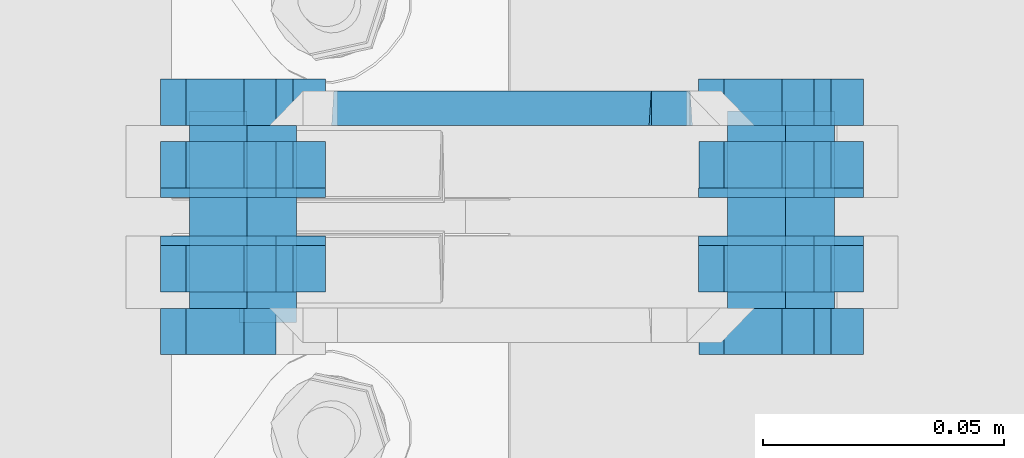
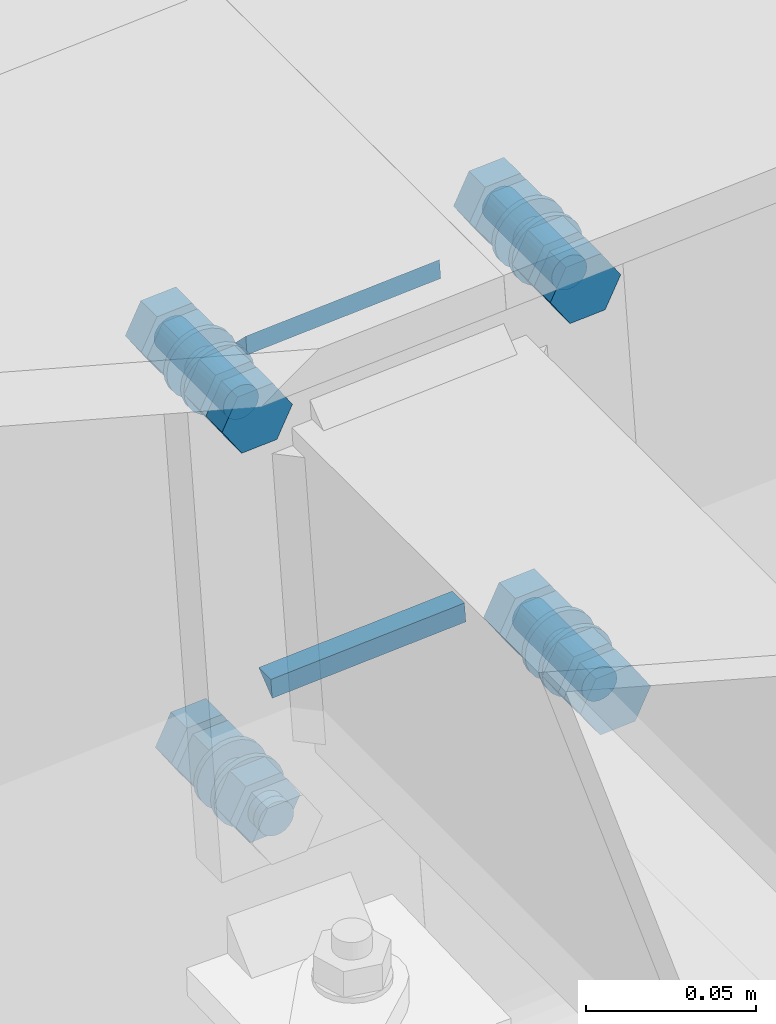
# One storey, part 42 of 72: 31 mechanical fasteners, 4 fasteners.
"""IFC4 building model written with IfcOpenShell, lengths in metres."""

from ifc_helpers import new_model, si_unit, frame, origin_with_axes, place, context, project, spatial, polyline, outline, extrude, type_object, element, save


model = new_model("IFC4")

# Units and contexts
model_context = context("Model", 3, precision=1e-05, world=origin_with_axes())
ifc_project = project(units=[si_unit("LENGTHUNIT", "METRE"), si_unit("AREAUNIT", "SQUARE_METRE"), si_unit("VOLUMEUNIT", "CUBIC_METRE"), si_unit("MASSUNIT", "GRAM", prefix="KILO"), si_unit("TIMEUNIT", "SECOND"), si_unit("PLANEANGLEUNIT", "RADIAN"), si_unit("SOLIDANGLEUNIT", "STERADIAN"), si_unit("THERMODYNAMICTEMPERATUREUNIT", "DEGREE_CELSIUS")], contexts=[model_context])

# Site, building, storey
placement_1 = place(None, origin_with_axes())
site = spatial("IfcSite", under=ifc_project, at=placement_1, Name="Italia", CompositionType="ELEMENT")
building = spatial("IfcBuilding", under=site, at=placement_1, Name="Pensilina", CompositionType="ELEMENT")
storey = spatial("IfcBuildingStorey", under=building, at=placement_1, Name="Storey 0", CompositionType="ELEMENT", Elevation=0.0)

# Mechanical fasteners
mechanical_fastener_type_1 = type_object("IfcMechanicalFastenerType", Name="Collegamento 0602_0601", PredefinedType="BOLT")
placement_2 = place(placement_1, origin_with_axes())
mechanical_fastener_1_placement = place(placement_2, origin_with_axes())
element("IfcMechanicalFastener", 1, at=mechanical_fastener_1_placement, inside=storey, type_object=mechanical_fastener_type_1, Name="Collegamento 0602_0601", NominalDiameter=0.012, context=model_context, shape_type="SweptSolid", body=[
    extrude(outline(polyline([(0.0, 0.0, 0.0), (-0.000204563, -0.00155282, 0.0), (-0.000803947, -0.00300002, 0.0), (-0.00175762, -0.00424266, 0.0), (-0.00300026, -0.00519609, 0.0), (-0.00444698, -0.00579548, 0.0), (-0.00600004, -0.00600004, 0.0), (-0.0075531, -0.00579548, 0.0), (-0.00899982, -0.00519609, 0.0), (-0.0102425, -0.00424266, 0.0), (-0.0111961, -0.00300002, 0.0), (-0.0117955, -0.00155282, 0.0), (-0.0120001, 0.0, 0.0), (-0.0117955, 0.00155282, 0.0), (-0.0111961, 0.00300002, 0.0), (-0.0102425, 0.00424266, 0.0), (-0.00899982, 0.00519609, 0.0), (-0.0075531, 0.00579548, 0.0), (-0.00600004, 0.00600004, 0.0), (-0.00444698, 0.00579548, 0.0), (-0.00300026, 0.00519609, 0.0), (-0.00175762, 0.00424266, 0.0), (-0.000803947, 0.00300002, 0.0), (-0.000204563, 0.00155282, 0.0), (0.0, 0.0, 0.0)])), frame((5.76506, 5.302, 3.94598), z_axis=(0.0, -1.0, 0.0), x_axis=(1.0, 0.0, 0.0)), (0.0, 0.0, 1.0), 0.0409999),
])
mechanical_fastener_type_2 = type_object("IfcMechanicalFastenerType", Name="Collegamento 0602_0601", PredefinedType="BOLT")
mechanical_fastener_2_placement = place(placement_2, origin_with_axes())
element("IfcMechanicalFastener", 2, at=mechanical_fastener_2_placement, inside=storey, type_object=mechanical_fastener_type_2, Name="Collegamento 0602_0601", NominalDiameter=0.0119998, context=model_context, shape_type="SweptSolid", body=[
    extrude(outline(polyline([(0.0, 0.0, 0.0), (-0.0119729, -0.000807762, 0.0), (-0.0186586, 0.00915718, 0.0), (-0.0133719, 0.0199296, 0.0), (-0.00139904, 0.0207376, 0.0), (0.00528669, 0.0107727, 0.0), (0.0, 0.0, 0.0)])), frame((5.76574, 5.2956, 3.93602), z_axis=(0.0, -1.0, 0.0), x_axis=(1.0, 0.0, 0.0)), (0.0, 0.0, 1.0), 0.00959969),
])
mechanical_fastener_type_3 = type_object("IfcMechanicalFastenerType", Name="Collegamento 0602_0601", PredefinedType="BOLT")
mechanical_fastener_3_placement = place(placement_2, origin_with_axes())
element("IfcMechanicalFastener", 3, at=mechanical_fastener_3_placement, inside=storey, type_object=mechanical_fastener_type_3, Name="Collegamento 0602_0601", NominalDiameter=0.024, context=model_context, shape_type="SweptSolid", body=[
    extrude(outline(polyline([(0.0, 0.0, 0.0), (-0.000409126, -0.00310588, 0.0), (-0.00160789, -0.00600004, 0.0), (-0.00351477, -0.00848532, 0.0), (-0.00600004, -0.0103922, 0.0), (-0.00889444, -0.0115912, 0.0), (-0.0120001, -0.0120001, 0.0), (-0.0151057, -0.0115912, 0.0), (-0.0180001, -0.0103922, 0.0), (-0.0204854, -0.00848532, 0.0), (-0.0223923, -0.00600004, 0.0), (-0.023591, -0.00310588, 0.0), (-0.0240002, 0.0, 0.0), (-0.023591, 0.00310588, 0.0), (-0.0223923, 0.00600004, 0.0), (-0.0204854, 0.00848532, 0.0), (-0.0180001, 0.0103922, 0.0), (-0.0151057, 0.0115912, 0.0), (-0.0120001, 0.0120001, 0.0), (-0.00889444, 0.0115912, 0.0), (-0.00600004, 0.0103922, 0.0), (-0.00351477, 0.00848532, 0.0), (-0.00160789, 0.00600004, 0.0), (-0.000409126, 0.00310588, 0.0), (0.0, 0.0, 0.0)])), frame((5.77106, 5.286, 3.94598), z_axis=(0.0, -1.0, 0.0), x_axis=(1.0, 0.0, 0.0)), (0.0, 0.0, 1.0), 0.00200033),
])
mechanical_fastener_type_4 = type_object("IfcMechanicalFastenerType", Name="Collegamento 0602_0601", PredefinedType="BOLT")
mechanical_fastener_4_placement = place(placement_2, origin_with_axes())
element("IfcMechanicalFastener", 4, at=mechanical_fastener_4_placement, inside=storey, type_object=mechanical_fastener_type_4, Name="Collegamento 0602_0601", NominalDiameter=0.0119998, context=model_context, shape_type="SweptSolid", body=[
    extrude(outline(polyline([(0.0, 0.0, 0.0), (-0.0119729, -0.000807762, 0.0), (-0.0186586, 0.00915718, 0.0), (-0.0133719, 0.0199296, 0.0), (-0.00139904, 0.0207376, 0.0), (0.00528669, 0.0107727, 0.0), (0.0, 0.0, 0.0)])), frame((5.87749, 5.261, 3.94356), z_axis=(0.0, -1.0, 0.0), x_axis=(1.0, 0.0, 0.0)), (0.0, 0.0, 1.0), 0.00960016),
])
mechanical_fastener_type_5 = type_object("IfcMechanicalFastenerType", Name="Collegamento 0602_0601", PredefinedType="BOLT")
mechanical_fastener_5_placement = place(placement_2, origin_with_axes())
element("IfcMechanicalFastener", 5, at=mechanical_fastener_5_placement, inside=storey, type_object=mechanical_fastener_type_5, Name="Collegamento 0602_0601", NominalDiameter=0.012, context=model_context, shape_type="SweptSolid", body=[
    extrude(outline(polyline([(0.0, 0.0, 0.0), (-0.000204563, -0.00155282, 0.0), (-0.000803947, -0.00300002, 0.0), (-0.00175762, -0.00424266, 0.0), (-0.00300026, -0.00519609, 0.0), (-0.00444698, -0.00579548, 0.0), (-0.00600004, -0.00600004, 0.0), (-0.0075531, -0.00579548, 0.0), (-0.00899982, -0.00519609, 0.0), (-0.0102425, -0.00424266, 0.0), (-0.0111961, -0.00300002, 0.0), (-0.0117955, -0.00155282, 0.0), (-0.0120001, 0.0, 0.0), (-0.0117955, 0.00155282, 0.0), (-0.0111961, 0.00300002, 0.0), (-0.0102425, 0.00424266, 0.0), (-0.00899982, 0.00519609, 0.0), (-0.0075531, 0.00579548, 0.0), (-0.00600004, 0.00600004, 0.0), (-0.00444698, 0.00579548, 0.0), (-0.00300026, 0.00519609, 0.0), (-0.00175762, 0.00424266, 0.0), (-0.000803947, 0.00300002, 0.0), (-0.000204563, 0.00155282, 0.0), (0.0, 0.0, 0.0)])), frame((5.8768, 5.302, 3.95352), z_axis=(0.0, -1.0, 0.0), x_axis=(1.0, 0.0, 0.0)), (0.0, 0.0, 1.0), 0.0409999),
])
mechanical_fastener_type_6 = type_object("IfcMechanicalFastenerType", Name="Collegamento 0602_0601", PredefinedType="BOLT")
mechanical_fastener_6_placement = place(placement_2, origin_with_axes())
element("IfcMechanicalFastener", 6, at=mechanical_fastener_6_placement, inside=storey, type_object=mechanical_fastener_type_6, Name="Collegamento 0602_0601", NominalDiameter=0.0119998, context=model_context, shape_type="SweptSolid", body=[
    extrude(outline(polyline([(0.0, 0.0, 0.0), (-0.0119729, -0.000807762, 0.0), (-0.0186586, 0.00915718, 0.0), (-0.0133719, 0.0199296, 0.0), (-0.00139904, 0.0207376, 0.0), (0.00528669, 0.0107727, 0.0), (0.0, 0.0, 0.0)])), frame((5.87749, 5.2956, 3.94356), z_axis=(0.0, -1.0, 0.0), x_axis=(1.0, 0.0, 0.0)), (0.0, 0.0, 1.0), 0.00959969),
])
mechanical_fastener_type_7 = type_object("IfcMechanicalFastenerType", Name="Collegamento 0602_0601", PredefinedType="BOLT")
mechanical_fastener_7_placement = place(placement_2, origin_with_axes())
element("IfcMechanicalFastener", 7, at=mechanical_fastener_7_placement, inside=storey, type_object=mechanical_fastener_type_7, Name="Collegamento 0602_0601", NominalDiameter=0.024, context=model_context, shape_type="SweptSolid", body=[
    extrude(outline(polyline([(0.0, 0.0, 0.0), (-0.000409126, -0.00310588, 0.0), (-0.00160789, -0.00600004, 0.0), (-0.00351477, -0.00848532, 0.0), (-0.00600004, -0.0103922, 0.0), (-0.00889444, -0.0115912, 0.0), (-0.0120001, -0.0120001, 0.0), (-0.0151057, -0.0115912, 0.0), (-0.0180001, -0.0103922, 0.0), (-0.0204854, -0.00848532, 0.0), (-0.0223923, -0.00600004, 0.0), (-0.023591, -0.00310588, 0.0), (-0.0240002, 0.0, 0.0), (-0.023591, 0.00310588, 0.0), (-0.0223923, 0.00600004, 0.0), (-0.0204854, 0.00848532, 0.0), (-0.0180001, 0.0103922, 0.0), (-0.0151057, 0.0115912, 0.0), (-0.0120001, 0.0120001, 0.0), (-0.00889444, 0.0115912, 0.0), (-0.00600004, 0.0103922, 0.0), (-0.00351477, 0.00848532, 0.0), (-0.00160789, 0.00600004, 0.0), (-0.000409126, 0.00310588, 0.0), (0.0, 0.0, 0.0)])), frame((5.8828, 5.286, 3.95352), z_axis=(0.0, -1.0, 0.0), x_axis=(1.0, 0.0, 0.0)), (0.0, 0.0, 1.0), 0.00200033),
])
mechanical_fastener_type_8 = type_object("IfcMechanicalFastenerType", Name="Collegamento 0602_0601", PredefinedType="BOLT")
mechanical_fastener_8_placement = place(placement_2, origin_with_axes())
element("IfcMechanicalFastener", 8, at=mechanical_fastener_8_placement, inside=storey, type_object=mechanical_fastener_type_8, Name="Collegamento 0602_0601", NominalDiameter=0.0119996, context=model_context, shape_type="SweptSolid", body=[
    extrude(outline(polyline([(0.0, 0.0, 0.0), (-0.0119729, -0.000807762, 0.0), (-0.0186586, 0.0091567, 0.0), (-0.0133719, 0.0199294, 0.0), (-0.00139904, 0.0207372, 0.0), (0.00528669, 0.0107727, 0.0), (0.0, 0.0, 0.0)])), frame((5.75551, 5.261, 4.08767), z_axis=(0.0, -1.0, 0.0), x_axis=(1.0, 0.0, 0.0)), (0.0, 0.0, 1.0), 0.00960016),
])
mechanical_fastener_type_9 = type_object("IfcMechanicalFastenerType", Name="Collegamento 0602_0601", PredefinedType="BOLT")
mechanical_fastener_9_placement = place(placement_2, origin_with_axes())
element("IfcMechanicalFastener", 9, at=mechanical_fastener_9_placement, inside=storey, type_object=mechanical_fastener_type_9, Name="Collegamento 0602_0601", NominalDiameter=0.012, context=model_context, shape_type="SweptSolid", body=[
    extrude(outline(polyline([(0.0, 0.0, 0.0), (-0.000204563, -0.00155306, 0.0), (-0.000803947, -0.00299978, 0.0), (-0.00175762, -0.00424242, 0.0), (-0.00300026, -0.00519609, 0.0), (-0.00444698, -0.00579548, 0.0), (-0.00600004, -0.00600004, 0.0), (-0.0075531, -0.00579548, 0.0), (-0.00899982, -0.00519609, 0.0), (-0.0102425, -0.00424242, 0.0), (-0.0111961, -0.00299978, 0.0), (-0.0117955, -0.00155306, 0.0), (-0.0120001, 0.0, 0.0), (-0.0117955, 0.00155306, 0.0), (-0.0111961, 0.00299978, 0.0), (-0.0102425, 0.00424242, 0.0), (-0.00899982, 0.00519609, 0.0), (-0.0075531, 0.00579548, 0.0), (-0.00600004, 0.00600004, 0.0), (-0.00444698, 0.00579548, 0.0), (-0.00300026, 0.00519609, 0.0), (-0.00175762, 0.00424242, 0.0), (-0.000803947, 0.00299978, 0.0), (-0.000204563, 0.00155306, 0.0), (0.0, 0.0, 0.0)])), frame((5.75482, 5.302, 4.09764), z_axis=(0.0, -1.0, 0.0), x_axis=(1.0, 0.0, 0.0)), (0.0, 0.0, 1.0), 0.0409999),
])
mechanical_fastener_type_10 = type_object("IfcMechanicalFastenerType", Name="Collegamento 0602_0601", PredefinedType="BOLT")
mechanical_fastener_10_placement = place(placement_2, origin_with_axes())
element("IfcMechanicalFastener", 10, at=mechanical_fastener_10_placement, inside=storey, type_object=mechanical_fastener_type_10, Name="Collegamento 0602_0601", NominalDiameter=0.0119996, context=model_context, shape_type="SweptSolid", body=[
    extrude(outline(polyline([(0.0, 0.0, 0.0), (-0.0119729, -0.000807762, 0.0), (-0.0186586, 0.0091567, 0.0), (-0.0133719, 0.0199294, 0.0), (-0.00139904, 0.0207372, 0.0), (0.00528669, 0.0107727, 0.0), (0.0, 0.0, 0.0)])), frame((5.75551, 5.2956, 4.08767), z_axis=(0.0, -1.0, 0.0), x_axis=(1.0, 0.0, 0.0)), (0.0, 0.0, 1.0), 0.00959969),
])
mechanical_fastener_type_11 = type_object("IfcMechanicalFastenerType", Name="Collegamento 0602_0601", PredefinedType="BOLT")
mechanical_fastener_11_placement = place(placement_2, origin_with_axes())
element("IfcMechanicalFastener", 11, at=mechanical_fastener_11_placement, inside=storey, type_object=mechanical_fastener_type_11, Name="Collegamento 0602_0601", NominalDiameter=0.024, context=model_context, shape_type="SweptSolid", body=[
    extrude(outline(polyline([(0.0, 0.0, 0.0), (-0.000409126, -0.00310564, 0.0), (-0.00160789, -0.00600004, 0.0), (-0.00351477, -0.00848532, 0.0), (-0.00600004, -0.0103922, 0.0), (-0.00889444, -0.011591, 0.0), (-0.0120001, -0.0120001, 0.0), (-0.0151057, -0.011591, 0.0), (-0.0180001, -0.0103922, 0.0), (-0.0204854, -0.00848532, 0.0), (-0.0223923, -0.00600004, 0.0), (-0.023591, -0.00310564, 0.0), (-0.0240002, 0.0, 0.0), (-0.023591, 0.00310564, 0.0), (-0.0223923, 0.00600004, 0.0), (-0.0204854, 0.00848532, 0.0), (-0.0180001, 0.0103922, 0.0), (-0.0151057, 0.011591, 0.0), (-0.0120001, 0.0120001, 0.0), (-0.00889444, 0.011591, 0.0), (-0.00600004, 0.0103922, 0.0), (-0.00351477, 0.00848532, 0.0), (-0.00160789, 0.00600004, 0.0), (-0.000409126, 0.00310564, 0.0), (0.0, 0.0, 0.0)])), frame((5.76082, 5.286, 4.09764), z_axis=(0.0, -1.0, 0.0), x_axis=(1.0, 0.0, 0.0)), (0.0, 0.0, 1.0), 0.00200033),
])
mechanical_fastener_type_12 = type_object("IfcMechanicalFastenerType", Name="Collegamento 0602_0601", PredefinedType="BOLT")
mechanical_fastener_12_placement = place(placement_2, origin_with_axes())
element("IfcMechanicalFastener", 12, at=mechanical_fastener_12_placement, inside=storey, type_object=mechanical_fastener_type_12, Name="Collegamento 0602_0601", NominalDiameter=0.0119996, context=model_context, shape_type="SweptSolid", body=[
    extrude(outline(polyline([(0.0, 0.0, 0.0), (-0.0119729, -0.000807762, 0.0), (-0.0186586, 0.0091567, 0.0), (-0.0133719, 0.0199294, 0.0), (-0.00139904, 0.0207372, 0.0), (0.00528669, 0.0107727, 0.0), (0.0, 0.0, 0.0)])), frame((5.86726, 5.261, 4.09521), z_axis=(0.0, -1.0, 0.0), x_axis=(1.0, 0.0, 0.0)), (0.0, 0.0, 1.0), 0.00960016),
])
mechanical_fastener_type_13 = type_object("IfcMechanicalFastenerType", Name="Collegamento 0602_0601", PredefinedType="BOLT")
mechanical_fastener_13_placement = place(placement_2, origin_with_axes())
element("IfcMechanicalFastener", 13, at=mechanical_fastener_13_placement, inside=storey, type_object=mechanical_fastener_type_13, Name="Collegamento 0602_0601", NominalDiameter=0.012, context=model_context, shape_type="SweptSolid", body=[
    extrude(outline(polyline([(0.0, 0.0, 0.0), (-0.000204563, -0.00155306, 0.0), (-0.000803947, -0.00299978, 0.0), (-0.00175762, -0.00424242, 0.0), (-0.00300026, -0.00519609, 0.0), (-0.00444698, -0.00579548, 0.0), (-0.00600004, -0.00600004, 0.0), (-0.0075531, -0.00579548, 0.0), (-0.00899982, -0.00519609, 0.0), (-0.0102425, -0.00424242, 0.0), (-0.0111961, -0.00299978, 0.0), (-0.0117955, -0.00155306, 0.0), (-0.0120001, 0.0, 0.0), (-0.0117955, 0.00155306, 0.0), (-0.0111961, 0.00299978, 0.0), (-0.0102425, 0.00424242, 0.0), (-0.00899982, 0.00519609, 0.0), (-0.0075531, 0.00579548, 0.0), (-0.00600004, 0.00600004, 0.0), (-0.00444698, 0.00579548, 0.0), (-0.00300026, 0.00519609, 0.0), (-0.00175762, 0.00424242, 0.0), (-0.000803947, 0.00299978, 0.0), (-0.000204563, 0.00155306, 0.0), (0.0, 0.0, 0.0)])), frame((5.86657, 5.302, 4.10518), z_axis=(0.0, -1.0, 0.0), x_axis=(1.0, 0.0, 0.0)), (0.0, 0.0, 1.0), 0.0409999),
])
mechanical_fastener_type_14 = type_object("IfcMechanicalFastenerType", Name="Collegamento 0602_0601", PredefinedType="BOLT")
mechanical_fastener_14_placement = place(placement_2, origin_with_axes())
element("IfcMechanicalFastener", 14, at=mechanical_fastener_14_placement, inside=storey, type_object=mechanical_fastener_type_14, Name="Collegamento 0602_0601", NominalDiameter=0.0119996, context=model_context, shape_type="SweptSolid", body=[
    extrude(outline(polyline([(0.0, 0.0, 0.0), (-0.0119729, -0.000807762, 0.0), (-0.0186586, 0.0091567, 0.0), (-0.0133719, 0.0199294, 0.0), (-0.00139904, 0.0207372, 0.0), (0.00528669, 0.0107727, 0.0), (0.0, 0.0, 0.0)])), frame((5.86726, 5.2956, 4.09521), z_axis=(0.0, -1.0, 0.0), x_axis=(1.0, 0.0, 0.0)), (0.0, 0.0, 1.0), 0.00959969),
])
mechanical_fastener_type_15 = type_object("IfcMechanicalFastenerType", Name="Collegamento 0602_0601", PredefinedType="BOLT")
mechanical_fastener_15_placement = place(placement_2, origin_with_axes())
element("IfcMechanicalFastener", 15, at=mechanical_fastener_15_placement, inside=storey, type_object=mechanical_fastener_type_15, Name="Collegamento 0602_0601", NominalDiameter=0.024, context=model_context, shape_type="SweptSolid", body=[
    extrude(outline(polyline([(0.0, 0.0, 0.0), (-0.000409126, -0.00310564, 0.0), (-0.00160789, -0.00600004, 0.0), (-0.00351477, -0.00848532, 0.0), (-0.00600004, -0.0103922, 0.0), (-0.00889444, -0.011591, 0.0), (-0.0120001, -0.0120001, 0.0), (-0.0151057, -0.011591, 0.0), (-0.0180001, -0.0103922, 0.0), (-0.0204854, -0.00848532, 0.0), (-0.0223923, -0.00600004, 0.0), (-0.023591, -0.00310564, 0.0), (-0.0240002, 0.0, 0.0), (-0.023591, 0.00310564, 0.0), (-0.0223923, 0.00600004, 0.0), (-0.0204854, 0.00848532, 0.0), (-0.0180001, 0.0103922, 0.0), (-0.0151057, 0.011591, 0.0), (-0.0120001, 0.0120001, 0.0), (-0.00889444, 0.011591, 0.0), (-0.00600004, 0.0103922, 0.0), (-0.00351477, 0.00848532, 0.0), (-0.00160789, 0.00600004, 0.0), (-0.000409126, 0.00310564, 0.0), (0.0, 0.0, 0.0)])), frame((5.87257, 5.286, 4.10518), z_axis=(0.0, -1.0, 0.0), x_axis=(1.0, 0.0, 0.0)), (0.0, 0.0, 1.0), 0.00200033),
])

# Fasteners
fastener_type_1 = type_object("IfcFastenerType", Name="Collegamento 0602_0603", PredefinedType="WELD")
fastener_1_placement = place(placement_2, origin_with_axes())
element("IfcFastener", 16, at=fastener_1_placement, inside=storey, type_object=fastener_type_1, Name="Collegamento 0602_0603", context=model_context, shape_type="SweptSolid", body=[
    extrude(outline(polyline([(0.0, 0.0, 0.0), (0.00717354, -0.00695801, 0.0), (0.0, -0.00695801, 0.0), (0.0, 0.0, 0.0)])), frame((5.77233, 5.29895, 4.09011), z_axis=(0.997731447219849, 0.0, 0.067320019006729), x_axis=(0.0, 1.0, 0.0)), (0.0, 0.0, 1.0), 0.0660999),
])
fastener_type_2 = type_object("IfcFastenerType", Name="Collegamento 0602_0603", PredefinedType="WELD")
fastener_2_placement = place(placement_2, origin_with_axes())
element("IfcFastener", 17, at=fastener_2_placement, inside=storey, type_object=fastener_type_2, Name="Collegamento 0602_0603", context=model_context, shape_type="SweptSolid", body=[
    extrude(outline(polyline([(0.0, 0.0, 0.0), (-0.00717354, 0.00695848, 0.0), (0.0, 0.00695848, 0.0), (0.0, 0.0, 0.0)])), frame((5.84729, 5.29895, 3.96105), z_axis=(-0.997731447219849, 0.0, -0.06731953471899), x_axis=(0.0, -1.0, 0.0)), (0.0, 0.0, 1.0), 0.0661003),
])
fastener_type_3 = type_object("IfcFastenerType", Name="Collegamento 0602_0603", PredefinedType="WELD")
fastener_3_placement = place(placement_2, origin_with_axes())
element("IfcFastener", 18, at=fastener_3_placement, inside=storey, type_object=fastener_type_3, Name="Collegamento 0602_0603", context=model_context, shape_type="SweptSolid", body=[
    extrude(outline(polyline([(0.0, 0.0, 0.0), (0.00717354, -0.00695801, 0.0), (0.0, -0.00695801, 0.0), (0.0, 0.0, 0.0)])), frame((5.77233, 5.29895, 4.09011), z_axis=(0.997731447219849, 0.0, 0.067320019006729), x_axis=(0.0, 1.0, 0.0)), (0.0, 0.0, 1.0), 0.0660999),
])
fastener_type_4 = type_object("IfcFastenerType", Name="Collegamento 0602_0603", PredefinedType="WELD")
fastener_4_placement = place(placement_2, origin_with_axes())
element("IfcFastener", 19, at=fastener_4_placement, inside=storey, type_object=fastener_type_4, Name="Collegamento 0602_0603", context=model_context, shape_type="SweptSolid", body=[
    extrude(outline(polyline([(0.0, 0.0, 0.0), (-0.00717354, 0.00695848, 0.0), (0.0, 0.00695848, 0.0), (0.0, 0.0, 0.0)])), frame((5.84729, 5.29895, 3.96105), z_axis=(-0.997731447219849, 0.0, -0.06731953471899), x_axis=(0.0, -1.0, 0.0)), (0.0, 0.0, 1.0), 0.0661003),
])

# Mechanical fasteners
mechanical_fastener_type_16 = type_object("IfcMechanicalFastenerType", Name="Collegamento 0602_0603", PredefinedType="BOLT")
mechanical_fastener_16_placement = place(placement_2, origin_with_axes())
element("IfcMechanicalFastener", 20, at=mechanical_fastener_16_placement, inside=storey, type_object=mechanical_fastener_type_16, Name="Collegamento 0602_0603", NominalDiameter=0.0119998, context=model_context, shape_type="SweptSolid", body=[
    extrude(outline(polyline([(0.0, 0.0, 0.0), (-0.0119729, 0.000807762, 0.0), (-0.0172596, 0.0115805, 0.0), (-0.0105739, 0.0215454, 0.0), (0.00139904, 0.0207374, 0.0), (0.00668573, 0.00996494, 0.0), (0.0, 0.0, 0.0)])), frame((5.86551, 5.299, 3.94275), z_axis=(0.0, 1.0, 0.0), x_axis=(-1.0, 0.0, 0.0)), (0.0, 0.0, 1.0), 0.00960016),
])
mechanical_fastener_type_17 = type_object("IfcMechanicalFastenerType", Name="Collegamento 0602_0603", PredefinedType="BOLT")
mechanical_fastener_17_placement = place(placement_2, origin_with_axes())
element("IfcMechanicalFastener", 21, at=mechanical_fastener_17_placement, inside=storey, type_object=mechanical_fastener_type_17, Name="Collegamento 0602_0603", NominalDiameter=0.012, context=model_context, shape_type="SweptSolid", body=[
    extrude(outline(polyline([(0.0, 0.0, 0.0), (-0.000204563, -0.00155282, 0.0), (-0.000803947, -0.00300002, 0.0), (-0.00175762, -0.00424266, 0.0), (-0.00300026, -0.00519609, 0.0), (-0.00444698, -0.00579548, 0.0), (-0.00600004, -0.00600004, 0.0), (-0.0075531, -0.00579548, 0.0), (-0.00899982, -0.00519609, 0.0), (-0.0102425, -0.00424266, 0.0), (-0.0111961, -0.00300002, 0.0), (-0.0117955, -0.00155282, 0.0), (-0.0120001, 0.0, 0.0), (-0.0117955, 0.00155282, 0.0), (-0.0111961, 0.00300002, 0.0), (-0.0102425, 0.00424266, 0.0), (-0.00899982, 0.00519609, 0.0), (-0.0075531, 0.00579548, 0.0), (-0.00600004, 0.00600004, 0.0), (-0.00444698, 0.00579548, 0.0), (-0.00300026, 0.00519609, 0.0), (-0.00175762, 0.00424266, 0.0), (-0.000803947, 0.00300002, 0.0), (-0.000204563, 0.00155282, 0.0), (0.0, 0.0, 0.0)])), frame((5.8648, 5.258, 3.95352), z_axis=(0.0, 1.0, 0.0), x_axis=(-1.0, 0.0, 0.0)), (0.0, 0.0, 1.0), 0.0409999),
])
mechanical_fastener_type_18 = type_object("IfcMechanicalFastenerType", Name="Collegamento 0602_0603", PredefinedType="BOLT")
mechanical_fastener_18_placement = place(placement_2, origin_with_axes())
element("IfcMechanicalFastener", 22, at=mechanical_fastener_18_placement, inside=storey, type_object=mechanical_fastener_type_18, Name="Collegamento 0602_0603", NominalDiameter=0.0119998, context=model_context, shape_type="SweptSolid", body=[
    extrude(outline(polyline([(0.0, 0.0, 0.0), (-0.0119729, 0.000807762, 0.0), (-0.0172596, 0.0115805, 0.0), (-0.0105739, 0.0215454, 0.0), (0.00139904, 0.0207374, 0.0), (0.00668573, 0.00996494, 0.0), (0.0, 0.0, 0.0)])), frame((5.86551, 5.2644, 3.94275), z_axis=(0.0, 1.0, 0.0), x_axis=(-1.0, 0.0, 0.0)), (0.0, 0.0, 1.0), 0.00959969),
])
mechanical_fastener_type_19 = type_object("IfcMechanicalFastenerType", Name="Collegamento 0602_0603", PredefinedType="BOLT")
mechanical_fastener_19_placement = place(placement_2, origin_with_axes())
element("IfcMechanicalFastener", 23, at=mechanical_fastener_19_placement, inside=storey, type_object=mechanical_fastener_type_19, Name="Collegamento 0602_0603", NominalDiameter=0.024, context=model_context, shape_type="SweptSolid", body=[
    extrude(outline(polyline([(0.0, 0.0, 0.0), (-0.000409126, -0.00310588, 0.0), (-0.00160789, -0.00600004, 0.0), (-0.00351477, -0.00848532, 0.0), (-0.00600004, -0.0103922, 0.0), (-0.00889444, -0.0115912, 0.0), (-0.0120001, -0.0120001, 0.0), (-0.0151057, -0.0115912, 0.0), (-0.0180001, -0.0103922, 0.0), (-0.0204854, -0.00848532, 0.0), (-0.0223923, -0.00600004, 0.0), (-0.023591, -0.00310588, 0.0), (-0.0240002, 0.0, 0.0), (-0.023591, 0.00310588, 0.0), (-0.0223923, 0.00600004, 0.0), (-0.0204854, 0.00848532, 0.0), (-0.0180001, 0.0103922, 0.0), (-0.0151057, 0.0115912, 0.0), (-0.0120001, 0.0120001, 0.0), (-0.00889444, 0.0115912, 0.0), (-0.00600004, 0.0103922, 0.0), (-0.00351477, 0.00848532, 0.0), (-0.00160789, 0.00600004, 0.0), (-0.000409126, 0.00310588, 0.0), (0.0, 0.0, 0.0)])), frame((5.8588, 5.274, 3.95352), z_axis=(0.0, 1.0, 0.0), x_axis=(-1.0, 0.0, 0.0)), (0.0, 0.0, 1.0), 0.00200033),
])
mechanical_fastener_type_20 = type_object("IfcMechanicalFastenerType", Name="Collegamento 0602_0603", PredefinedType="BOLT")
mechanical_fastener_20_placement = place(placement_2, origin_with_axes())
element("IfcMechanicalFastener", 24, at=mechanical_fastener_20_placement, inside=storey, type_object=mechanical_fastener_type_20, Name="Collegamento 0602_0603", NominalDiameter=0.0119998, context=model_context, shape_type="SweptSolid", body=[
    extrude(outline(polyline([(0.0, 0.0, 0.0), (-0.0119729, 0.000807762, 0.0), (-0.0172596, 0.0115805, 0.0), (-0.0105739, 0.0215454, 0.0), (0.00139904, 0.0207374, 0.0), (0.00668573, 0.00996494, 0.0), (0.0, 0.0, 0.0)])), frame((5.75377, 5.299, 3.93521), z_axis=(0.0, 1.0, 0.0), x_axis=(-1.0, 0.0, 0.0)), (0.0, 0.0, 1.0), 0.00960016),
])
mechanical_fastener_type_21 = type_object("IfcMechanicalFastenerType", Name="Collegamento 0602_0603", PredefinedType="BOLT")
mechanical_fastener_21_placement = place(placement_2, origin_with_axes())
element("IfcMechanicalFastener", 25, at=mechanical_fastener_21_placement, inside=storey, type_object=mechanical_fastener_type_21, Name="Collegamento 0602_0603", NominalDiameter=0.012, context=model_context, shape_type="SweptSolid", body=[
    extrude(outline(polyline([(0.0, 0.0, 0.0), (-0.000204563, -0.00155282, 0.0), (-0.000803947, -0.00300002, 0.0), (-0.00175762, -0.00424266, 0.0), (-0.00300026, -0.00519609, 0.0), (-0.00444698, -0.00579548, 0.0), (-0.00600004, -0.00600004, 0.0), (-0.0075531, -0.00579548, 0.0), (-0.00899982, -0.00519609, 0.0), (-0.0102425, -0.00424266, 0.0), (-0.0111961, -0.00300002, 0.0), (-0.0117955, -0.00155282, 0.0), (-0.0120001, 0.0, 0.0), (-0.0117955, 0.00155282, 0.0), (-0.0111961, 0.00300002, 0.0), (-0.0102425, 0.00424266, 0.0), (-0.00899982, 0.00519609, 0.0), (-0.0075531, 0.00579548, 0.0), (-0.00600004, 0.00600004, 0.0), (-0.00444698, 0.00579548, 0.0), (-0.00300026, 0.00519609, 0.0), (-0.00175762, 0.00424266, 0.0), (-0.000803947, 0.00300002, 0.0), (-0.000204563, 0.00155282, 0.0), (0.0, 0.0, 0.0)])), frame((5.75306, 5.258, 3.94598), z_axis=(0.0, 1.0, 0.0), x_axis=(-1.0, 0.0, 0.0)), (0.0, 0.0, 1.0), 0.0409999),
])
mechanical_fastener_type_22 = type_object("IfcMechanicalFastenerType", Name="Collegamento 0602_0603", PredefinedType="BOLT")
mechanical_fastener_22_placement = place(placement_2, origin_with_axes())
element("IfcMechanicalFastener", 26, at=mechanical_fastener_22_placement, inside=storey, type_object=mechanical_fastener_type_22, Name="Collegamento 0602_0603", NominalDiameter=0.0119998, context=model_context, shape_type="SweptSolid", body=[
    extrude(outline(polyline([(0.0, 0.0, 0.0), (-0.0119729, 0.000807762, 0.0), (-0.0172596, 0.0115805, 0.0), (-0.0105739, 0.0215454, 0.0), (0.00139904, 0.0207374, 0.0), (0.00668573, 0.00996494, 0.0), (0.0, 0.0, 0.0)])), frame((5.75377, 5.2644, 3.93521), z_axis=(0.0, 1.0, 0.0), x_axis=(-1.0, 0.0, 0.0)), (0.0, 0.0, 1.0), 0.00959969),
])
mechanical_fastener_type_23 = type_object("IfcMechanicalFastenerType", Name="Collegamento 0602_0603", PredefinedType="BOLT")
mechanical_fastener_23_placement = place(placement_2, origin_with_axes())
element("IfcMechanicalFastener", 27, at=mechanical_fastener_23_placement, inside=storey, type_object=mechanical_fastener_type_23, Name="Collegamento 0602_0603", NominalDiameter=0.024, context=model_context, shape_type="SweptSolid", body=[
    extrude(outline(polyline([(0.0, 0.0, 0.0), (-0.000409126, -0.00310588, 0.0), (-0.00160789, -0.00600004, 0.0), (-0.00351477, -0.00848532, 0.0), (-0.00600004, -0.0103922, 0.0), (-0.00889444, -0.0115912, 0.0), (-0.0120001, -0.0120001, 0.0), (-0.0151057, -0.0115912, 0.0), (-0.0180001, -0.0103922, 0.0), (-0.0204854, -0.00848532, 0.0), (-0.0223923, -0.00600004, 0.0), (-0.023591, -0.00310588, 0.0), (-0.0240002, 0.0, 0.0), (-0.023591, 0.00310588, 0.0), (-0.0223923, 0.00600004, 0.0), (-0.0204854, 0.00848532, 0.0), (-0.0180001, 0.0103922, 0.0), (-0.0151057, 0.0115912, 0.0), (-0.0120001, 0.0120001, 0.0), (-0.00889444, 0.0115912, 0.0), (-0.00600004, 0.0103922, 0.0), (-0.00351477, 0.00848532, 0.0), (-0.00160789, 0.00600004, 0.0), (-0.000409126, 0.00310588, 0.0), (0.0, 0.0, 0.0)])), frame((5.74706, 5.274, 3.94598), z_axis=(0.0, 1.0, 0.0), x_axis=(-1.0, 0.0, 0.0)), (0.0, 0.0, 1.0), 0.00200033),
])
mechanical_fastener_type_24 = type_object("IfcMechanicalFastenerType", Name="Collegamento 0602_0603", PredefinedType="BOLT")
mechanical_fastener_24_placement = place(placement_2, origin_with_axes())
element("IfcMechanicalFastener", 28, at=mechanical_fastener_24_placement, inside=storey, type_object=mechanical_fastener_type_24, Name="Collegamento 0602_0603", NominalDiameter=0.012, context=model_context, shape_type="SweptSolid", body=[
    extrude(outline(polyline([(0.0, 0.0, 0.0), (-0.0119729, 0.000807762, 0.0), (-0.0172596, 0.0115805, 0.0), (-0.0105739, 0.0215454, 0.0), (0.00139904, 0.0207376, 0.0), (0.00668573, 0.00996494, 0.0), (0.0, 0.0, 0.0)])), frame((5.85528, 5.299, 4.0944), z_axis=(0.0, 1.0, 0.0), x_axis=(-1.0, 0.0, 0.0)), (0.0, 0.0, 1.0), 0.00960016),
])
mechanical_fastener_type_25 = type_object("IfcMechanicalFastenerType", Name="Collegamento 0602_0603", PredefinedType="BOLT")
mechanical_fastener_25_placement = place(placement_2, origin_with_axes())
element("IfcMechanicalFastener", 29, at=mechanical_fastener_25_placement, inside=storey, type_object=mechanical_fastener_type_25, Name="Collegamento 0602_0603", NominalDiameter=0.012, context=model_context, shape_type="SweptSolid", body=[
    extrude(outline(polyline([(0.0, 0.0, 0.0), (-0.000204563, -0.00155306, 0.0), (-0.000803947, -0.00299978, 0.0), (-0.00175762, -0.00424242, 0.0), (-0.00300026, -0.00519609, 0.0), (-0.00444698, -0.00579548, 0.0), (-0.00600004, -0.00600004, 0.0), (-0.0075531, -0.00579548, 0.0), (-0.00899982, -0.00519609, 0.0), (-0.0102425, -0.00424242, 0.0), (-0.0111961, -0.00299978, 0.0), (-0.0117955, -0.00155306, 0.0), (-0.0120001, 0.0, 0.0), (-0.0117955, 0.00155306, 0.0), (-0.0111961, 0.00299978, 0.0), (-0.0102425, 0.00424242, 0.0), (-0.00899982, 0.00519609, 0.0), (-0.0075531, 0.00579548, 0.0), (-0.00600004, 0.00600004, 0.0), (-0.00444698, 0.00579548, 0.0), (-0.00300026, 0.00519609, 0.0), (-0.00175762, 0.00424242, 0.0), (-0.000803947, 0.00299978, 0.0), (-0.000204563, 0.00155306, 0.0), (0.0, 0.0, 0.0)])), frame((5.85457, 5.258, 4.10518), z_axis=(0.0, 1.0, 0.0), x_axis=(-1.0, 0.0, 0.0)), (0.0, 0.0, 1.0), 0.0409999),
])
mechanical_fastener_type_26 = type_object("IfcMechanicalFastenerType", Name="Collegamento 0602_0603", PredefinedType="BOLT")
mechanical_fastener_26_placement = place(placement_2, origin_with_axes())
element("IfcMechanicalFastener", 30, at=mechanical_fastener_26_placement, inside=storey, type_object=mechanical_fastener_type_26, Name="Collegamento 0602_0603", NominalDiameter=0.012, context=model_context, shape_type="SweptSolid", body=[
    extrude(outline(polyline([(0.0, 0.0, 0.0), (-0.0119729, 0.000807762, 0.0), (-0.0172596, 0.0115805, 0.0), (-0.0105739, 0.0215454, 0.0), (0.00139904, 0.0207376, 0.0), (0.00668573, 0.00996494, 0.0), (0.0, 0.0, 0.0)])), frame((5.85528, 5.2644, 4.0944), z_axis=(0.0, 1.0, 0.0), x_axis=(-1.0, 0.0, 0.0)), (0.0, 0.0, 1.0), 0.00959969),
])
mechanical_fastener_type_27 = type_object("IfcMechanicalFastenerType", Name="Collegamento 0602_0603", PredefinedType="BOLT")
mechanical_fastener_27_placement = place(placement_2, origin_with_axes())
element("IfcMechanicalFastener", 31, at=mechanical_fastener_27_placement, inside=storey, type_object=mechanical_fastener_type_27, Name="Collegamento 0602_0603", NominalDiameter=0.024, context=model_context, shape_type="SweptSolid", body=[
    extrude(outline(polyline([(0.0, 0.0, 0.0), (-0.000409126, -0.00310564, 0.0), (-0.00160789, -0.00600004, 0.0), (-0.00351477, -0.00848532, 0.0), (-0.00600004, -0.0103922, 0.0), (-0.00889444, -0.011591, 0.0), (-0.0120001, -0.0120001, 0.0), (-0.0151057, -0.011591, 0.0), (-0.0180001, -0.0103922, 0.0), (-0.0204854, -0.00848532, 0.0), (-0.0223923, -0.00600004, 0.0), (-0.023591, -0.00310564, 0.0), (-0.0240002, 0.0, 0.0), (-0.023591, 0.00310564, 0.0), (-0.0223923, 0.00600004, 0.0), (-0.0204854, 0.00848532, 0.0), (-0.0180001, 0.0103922, 0.0), (-0.0151057, 0.011591, 0.0), (-0.0120001, 0.0120001, 0.0), (-0.00889444, 0.011591, 0.0), (-0.00600004, 0.0103922, 0.0), (-0.00351477, 0.00848532, 0.0), (-0.00160789, 0.00600004, 0.0), (-0.000409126, 0.00310564, 0.0), (0.0, 0.0, 0.0)])), frame((5.84857, 5.274, 4.10518), z_axis=(0.0, 1.0, 0.0), x_axis=(-1.0, 0.0, 0.0)), (0.0, 0.0, 1.0), 0.00200033),
])
mechanical_fastener_type_28 = type_object("IfcMechanicalFastenerType", Name="Collegamento 0602_0603", PredefinedType="BOLT")
mechanical_fastener_28_placement = place(placement_2, origin_with_axes())
element("IfcMechanicalFastener", 32, at=mechanical_fastener_28_placement, inside=storey, type_object=mechanical_fastener_type_28, Name="Collegamento 0602_0603", NominalDiameter=0.012, context=model_context, shape_type="SweptSolid", body=[
    extrude(outline(polyline([(0.0, 0.0, 0.0), (-0.0119729, 0.000807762, 0.0), (-0.0172596, 0.0115805, 0.0), (-0.0105739, 0.0215454, 0.0), (0.00139904, 0.0207376, 0.0), (0.00668573, 0.00996494, 0.0), (0.0, 0.0, 0.0)])), frame((5.74354, 5.299, 4.08686), z_axis=(0.0, 1.0, 0.0), x_axis=(-1.0, 0.0, 0.0)), (0.0, 0.0, 1.0), 0.00960016),
])
mechanical_fastener_type_29 = type_object("IfcMechanicalFastenerType", Name="Collegamento 0602_0603", PredefinedType="BOLT")
mechanical_fastener_29_placement = place(placement_2, origin_with_axes())
element("IfcMechanicalFastener", 33, at=mechanical_fastener_29_placement, inside=storey, type_object=mechanical_fastener_type_29, Name="Collegamento 0602_0603", NominalDiameter=0.012, context=model_context, shape_type="SweptSolid", body=[
    extrude(outline(polyline([(0.0, 0.0, 0.0), (-0.000204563, -0.00155306, 0.0), (-0.000803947, -0.00299978, 0.0), (-0.00175762, -0.00424242, 0.0), (-0.00300026, -0.00519609, 0.0), (-0.00444698, -0.00579548, 0.0), (-0.00600004, -0.00600004, 0.0), (-0.0075531, -0.00579548, 0.0), (-0.00899982, -0.00519609, 0.0), (-0.0102425, -0.00424242, 0.0), (-0.0111961, -0.00299978, 0.0), (-0.0117955, -0.00155306, 0.0), (-0.0120001, 0.0, 0.0), (-0.0117955, 0.00155306, 0.0), (-0.0111961, 0.00299978, 0.0), (-0.0102425, 0.00424242, 0.0), (-0.00899982, 0.00519609, 0.0), (-0.0075531, 0.00579548, 0.0), (-0.00600004, 0.00600004, 0.0), (-0.00444698, 0.00579548, 0.0), (-0.00300026, 0.00519609, 0.0), (-0.00175762, 0.00424242, 0.0), (-0.000803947, 0.00299978, 0.0), (-0.000204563, 0.00155306, 0.0), (0.0, 0.0, 0.0)])), frame((5.74282, 5.258, 4.09764), z_axis=(0.0, 1.0, 0.0), x_axis=(-1.0, 0.0, 0.0)), (0.0, 0.0, 1.0), 0.0409999),
])
mechanical_fastener_type_30 = type_object("IfcMechanicalFastenerType", Name="Collegamento 0602_0603", PredefinedType="BOLT")
mechanical_fastener_30_placement = place(placement_2, origin_with_axes())
element("IfcMechanicalFastener", 34, at=mechanical_fastener_30_placement, inside=storey, type_object=mechanical_fastener_type_30, Name="Collegamento 0602_0603", NominalDiameter=0.012, context=model_context, shape_type="SweptSolid", body=[
    extrude(outline(polyline([(0.0, 0.0, 0.0), (-0.0119729, 0.000807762, 0.0), (-0.0172596, 0.0115805, 0.0), (-0.0105739, 0.0215454, 0.0), (0.00139904, 0.0207376, 0.0), (0.00668573, 0.00996494, 0.0), (0.0, 0.0, 0.0)])), frame((5.74354, 5.2644, 4.08686), z_axis=(0.0, 1.0, 0.0), x_axis=(-1.0, 0.0, 0.0)), (0.0, 0.0, 1.0), 0.00959969),
])
mechanical_fastener_type_31 = type_object("IfcMechanicalFastenerType", Name="Collegamento 0602_0603", PredefinedType="BOLT")
mechanical_fastener_31_placement = place(placement_2, origin_with_axes())
element("IfcMechanicalFastener", 35, at=mechanical_fastener_31_placement, inside=storey, type_object=mechanical_fastener_type_31, Name="Collegamento 0602_0603", NominalDiameter=0.024, context=model_context, shape_type="SweptSolid", body=[
    extrude(outline(polyline([(0.0, 0.0, 0.0), (-0.000409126, -0.00310564, 0.0), (-0.00160789, -0.00600004, 0.0), (-0.00351477, -0.00848532, 0.0), (-0.00600004, -0.0103922, 0.0), (-0.00889444, -0.011591, 0.0), (-0.0120001, -0.0120001, 0.0), (-0.0151057, -0.011591, 0.0), (-0.0180001, -0.0103922, 0.0), (-0.0204854, -0.00848532, 0.0), (-0.0223923, -0.00600004, 0.0), (-0.023591, -0.00310564, 0.0), (-0.0240002, 0.0, 0.0), (-0.023591, 0.00310564, 0.0), (-0.0223923, 0.00600004, 0.0), (-0.0204854, 0.00848532, 0.0), (-0.0180001, 0.0103922, 0.0), (-0.0151057, 0.011591, 0.0), (-0.0120001, 0.0120001, 0.0), (-0.00889444, 0.011591, 0.0), (-0.00600004, 0.0103922, 0.0), (-0.00351477, 0.00848532, 0.0), (-0.00160789, 0.00600004, 0.0), (-0.000409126, 0.00310564, 0.0), (0.0, 0.0, 0.0)])), frame((5.73682, 5.274, 4.09764), z_axis=(0.0, 1.0, 0.0), x_axis=(-1.0, 0.0, 0.0)), (0.0, 0.0, 1.0), 0.00200033),
])

save(model, "model.ifc")
